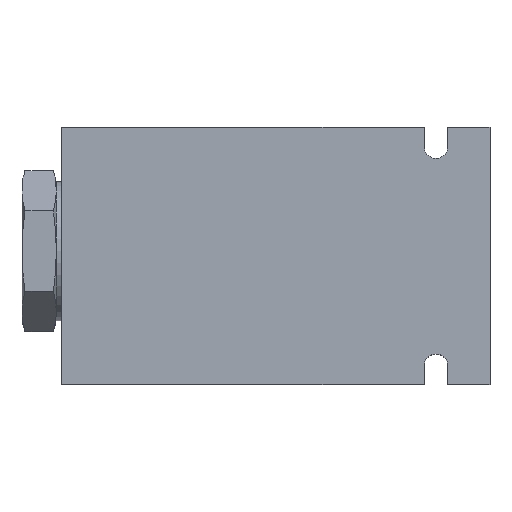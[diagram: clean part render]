
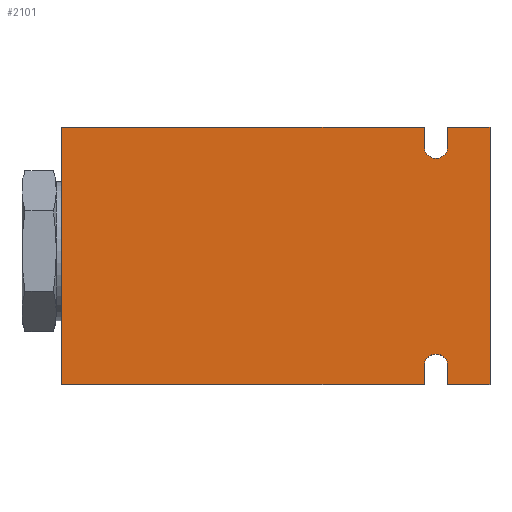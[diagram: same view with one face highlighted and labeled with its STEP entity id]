
A CAD part, top view. The second image highlights one B-rep face of the part: STEP entity #2101.
In plain terms, the highlighted planar face has unit normal (0, 0, 1).
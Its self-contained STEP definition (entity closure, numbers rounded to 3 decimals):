
#2101 = ADVANCED_FACE( '', ( #4891 ), #4892, .F. );
#4891 = FACE_OUTER_BOUND( '', #8621, .T. );
#4892 = PLANE( '', #8622 );
#8621 = EDGE_LOOP( '', ( #14595, #14596, #14597, #14598, #14599, #14600, #14601, #14602, #14603, #14604, #14605, #14606 ) );
#8622 = AXIS2_PLACEMENT_3D( '', #14607, #14608, #14609 );
#14595 = ORIENTED_EDGE( '', *, *, #23463, .T. );
#14596 = ORIENTED_EDGE( '', *, *, #23464, .T. );
#14597 = ORIENTED_EDGE( '', *, *, #23106, .T. );
#14598 = ORIENTED_EDGE( '', *, *, #23465, .F. );
#14599 = ORIENTED_EDGE( '', *, *, #23466, .F. );
#14600 = ORIENTED_EDGE( '', *, *, #23467, .F. );
#14601 = ORIENTED_EDGE( '', *, *, #23468, .F. );
#14602 = ORIENTED_EDGE( '', *, *, #23469, .F. );
#14603 = ORIENTED_EDGE( '', *, *, #23099, .F. );
#14604 = ORIENTED_EDGE( '', *, *, #23470, .F. );
#14605 = ORIENTED_EDGE( '', *, *, #23471, .F. );
#14606 = ORIENTED_EDGE( '', *, *, #22926, .F. );
#14607 = CARTESIAN_POINT( '', ( 63.5, -38.1, 50.8 ) );
#14608 = DIRECTION( '', ( 0., 0., -1. ) );
#14609 = DIRECTION( '', ( -1., 0., 0. ) );
#22926 = EDGE_CURVE( '', #27857, #27859, #27860, .T. );
#23099 = EDGE_CURVE( '', #28129, #28131, #28132, .T. );
#23106 = EDGE_CURVE( '', #28143, #28141, #28144, .T. );
#23463 = EDGE_CURVE( '', #27857, #28679, #28680, .T. );
#23464 = EDGE_CURVE( '', #28679, #28143, #28681, .T. );
#23465 = EDGE_CURVE( '', #28682, #28141, #28683, .T. );
#23466 = EDGE_CURVE( '', #28684, #28682, #28685, .T. );
#23467 = EDGE_CURVE( '', #28686, #28684, #28687, .T. );
#23468 = EDGE_CURVE( '', #28688, #28686, #28689, .T. );
#23469 = EDGE_CURVE( '', #28131, #28688, #28690, .T. );
#23470 = EDGE_CURVE( '', #28691, #28129, #28692, .T. );
#23471 = EDGE_CURVE( '', #27859, #28691, #28693, .T. );
#27857 = VERTEX_POINT( '', #36073 );
#27859 = VERTEX_POINT( '', #36076 );
#27860 = LINE( '', #36077, #36078 );
#28129 = VERTEX_POINT( '', #36613 );
#28131 = VERTEX_POINT( '', #36616 );
#28132 = LINE( '', #36617, #36618 );
#28141 = VERTEX_POINT( '', #36628 );
#28143 = VERTEX_POINT( '', #36631 );
#28144 = LINE( '', #36632, #36633 );
#28679 = VERTEX_POINT( '', #37831 );
#28680 = LINE( '', #37832, #37833 );
#28681 = CIRCLE( '', #37834, 3.5 );
#28682 = VERTEX_POINT( '', #37835 );
#28683 = LINE( '', #37836, #37837 );
#28684 = VERTEX_POINT( '', #37838 );
#28685 = LINE( '', #37839, #37840 );
#28686 = VERTEX_POINT( '', #37841 );
#28687 = LINE( '', #37842, #37843 );
#28688 = VERTEX_POINT( '', #37844 );
#28689 = LINE( '', #37845, #37846 );
#28690 = CIRCLE( '', #37847, 3.5 );
#28691 = VERTEX_POINT( '', #37848 );
#28692 = LINE( '', #37849, #37850 );
#28693 = LINE( '', #37851, #37852 );
#36073 = CARTESIAN_POINT( '', ( 44., -38.1, 50.8 ) );
#36076 = CARTESIAN_POINT( '', ( -63.5, -38.1, 50.8 ) );
#36077 = CARTESIAN_POINT( '', ( 63.5, -38.1, 50.8 ) );
#36078 = VECTOR( '', #44841, 1000. );
#36613 = CARTESIAN_POINT( '', ( 44., 38.1, 50.8 ) );
#36616 = CARTESIAN_POINT( '', ( 44., 32.4, 50.8 ) );
#36617 = CARTESIAN_POINT( '', ( 44., 38.1, 50.8 ) );
#36618 = VECTOR( '', #44952, 1000. );
#36628 = CARTESIAN_POINT( '', ( 51., -38.1, 50.8 ) );
#36631 = CARTESIAN_POINT( '', ( 51., -32.6, 50.8 ) );
#36632 = CARTESIAN_POINT( '', ( 51., -32.6, 50.8 ) );
#36633 = VECTOR( '', #44961, 1000. );
#37831 = CARTESIAN_POINT( '', ( 44., -32.6, 50.8 ) );
#37832 = CARTESIAN_POINT( '', ( 44., -38.1, 50.8 ) );
#37833 = VECTOR( '', #45169, 1000. );
#37834 = AXIS2_PLACEMENT_3D( '', #45170, #45171, #45172 );
#37835 = CARTESIAN_POINT( '', ( 63.5, -38.1, 50.8 ) );
#37836 = CARTESIAN_POINT( '', ( 63.5, -38.1, 50.8 ) );
#37837 = VECTOR( '', #45173, 1000. );
#37838 = CARTESIAN_POINT( '', ( 63.5, 38.1, 50.8 ) );
#37839 = CARTESIAN_POINT( '', ( 63.5, 38.1, 50.8 ) );
#37840 = VECTOR( '', #45174, 1000. );
#37841 = CARTESIAN_POINT( '', ( 51., 38.1, 50.8 ) );
#37842 = CARTESIAN_POINT( '', ( -63.5, 38.1, 50.8 ) );
#37843 = VECTOR( '', #45175, 1000. );
#37844 = CARTESIAN_POINT( '', ( 51., 32.4, 50.8 ) );
#37845 = CARTESIAN_POINT( '', ( 51., 32.4, 50.8 ) );
#37846 = VECTOR( '', #45176, 1000. );
#37847 = AXIS2_PLACEMENT_3D( '', #45177, #45178, #45179 );
#37848 = CARTESIAN_POINT( '', ( -63.5, 38.1, 50.8 ) );
#37849 = CARTESIAN_POINT( '', ( -63.5, 38.1, 50.8 ) );
#37850 = VECTOR( '', #45180, 1000. );
#37851 = CARTESIAN_POINT( '', ( -63.5, -38.1, 50.8 ) );
#37852 = VECTOR( '', #45181, 1000. );
#44841 = DIRECTION( '', ( -1., 0., 0. ) );
#44952 = DIRECTION( '', ( 0., -1., 0. ) );
#44961 = DIRECTION( '', ( 0., -1., 0. ) );
#45169 = DIRECTION( '', ( 0., 1., 0. ) );
#45170 = CARTESIAN_POINT( '', ( 47.5, -32.6, 50.8 ) );
#45171 = DIRECTION( '', ( 0., 0., -1. ) );
#45172 = DIRECTION( '', ( 0., -1., 0. ) );
#45173 = DIRECTION( '', ( -1., 0., 0. ) );
#45174 = DIRECTION( '', ( 0., -1., 0. ) );
#45175 = DIRECTION( '', ( 1., 0., 0. ) );
#45176 = DIRECTION( '', ( 0., 1., 0. ) );
#45177 = CARTESIAN_POINT( '', ( 47.5, 32.4, 50.8 ) );
#45178 = DIRECTION( '', ( 0., 0., 1. ) );
#45179 = DIRECTION( '', ( 0., 1., 0. ) );
#45180 = DIRECTION( '', ( 1., 0., 0. ) );
#45181 = DIRECTION( '', ( 0., 1., 0. ) );
